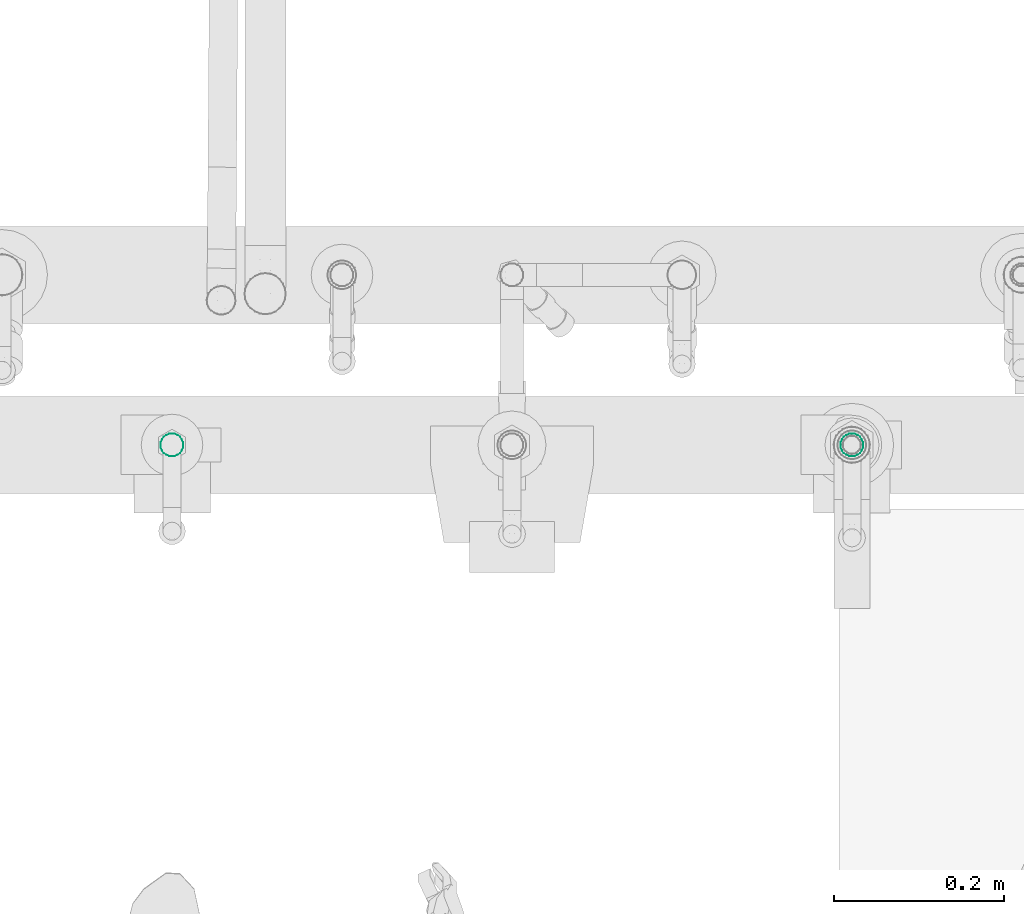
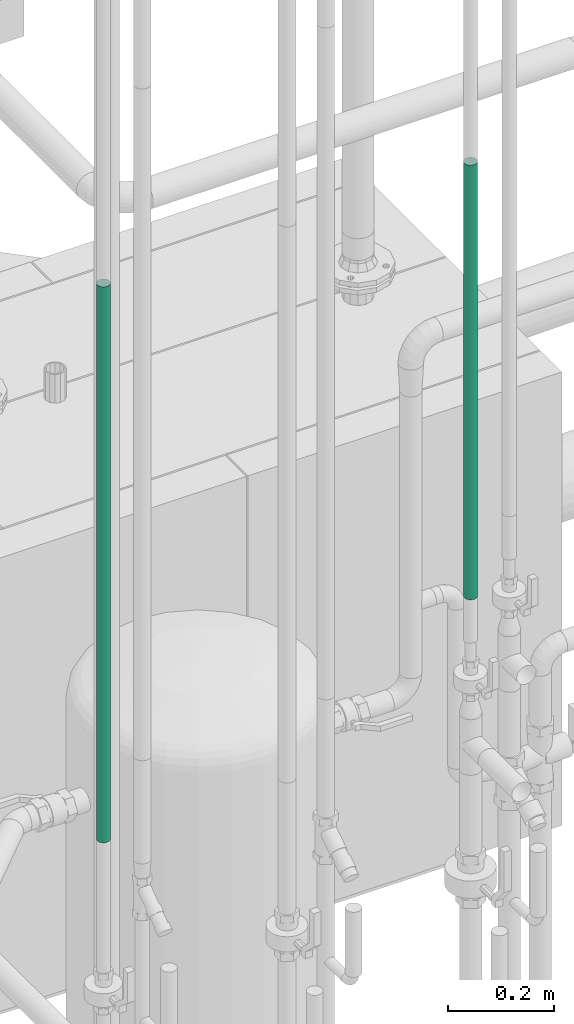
# One storey, part 208 of 374: 2 flow segments.
"""IFC2X3 building model written with IfcOpenShell, lengths in metres."""

from ifc_helpers import new_model, si_unit, direction, origin, place, context, subcontext, project, spatial, open_shell, surface_model, source, transform, mapped, element, save


model = new_model("IFC2X3")

# Units and contexts
model_context = context("Model", 3, precision=1e-05, world=origin(), true_north=direction((-0.4480736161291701, 0.8939966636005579)))
body_context = subcontext(model_context, "Body", "Model", "MODEL_VIEW")
ifc_project = project(units=[si_unit("LENGTHUNIT", "METRE"), si_unit("AREAUNIT", "SQUARE_METRE"), si_unit("VOLUMEUNIT", "CUBIC_METRE"), si_unit("PLANEANGLEUNIT", "RADIAN"), si_unit("THERMODYNAMICTEMPERATUREUNIT", "KELVIN"), si_unit("MASSUNIT", "GRAM", prefix="KILO"), si_unit("TIMEUNIT", "SECOND")], contexts=[model_context])

# Site, building, storey
site_placement = place(None, origin())
site = spatial("IfcSite", under=ifc_project, at=site_placement, Name="Site 1", CompositionType="ELEMENT")
building_placement = place(site_placement, origin())
building = spatial("IfcBuilding", under=site, at=building_placement, Name="Undefined", CompositionType="ELEMENT")
storey_placement = place(building_placement, origin())
storey = spatial("IfcBuildingStorey", under=building, at=storey_placement, Name="Rez de chauss\x8ee", CompositionType="ELEMENT", Elevation=0.0)

# Flow segments
shared_shape_1 = source(origin(), body_context, "Body", "SurfaceModel", [
    surface_model("IfcFaceBasedSurfaceModel", [(0.0, 0.0035111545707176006, 0.0), (0.0, 0.0, 0.0), (1.0010097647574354, 0.0, 0.0), (1.0010097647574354, 0.003511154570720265, 0.0), (0.0, -0.003391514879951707, -0.0009087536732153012), (1.0010097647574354, -0.0033915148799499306, -0.0009087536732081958), (0.0, -0.006432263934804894, -0.0026643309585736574), (1.0010097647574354, -0.006432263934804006, -0.002664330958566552), (0.0, -0.00891502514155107, -0.005147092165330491), (1.0010097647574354, -0.008915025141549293, -0.005147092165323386), (0.0, -0.010670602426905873, -0.008187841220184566), (1.0010097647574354, -0.010670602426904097, -0.008187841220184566), (0.0, -0.011579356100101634, -0.01157935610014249), (1.0010097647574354, -0.011579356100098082, -0.011579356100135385), (0.0, -0.011579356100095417, -0.015090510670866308), (1.0010097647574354, -0.011579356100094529, -0.015090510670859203), (0.0, -0.010670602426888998, -0.018482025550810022), (1.0010097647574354, -0.010670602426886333, -0.018482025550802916), (0.0, -0.008915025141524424, -0.021522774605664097), (1.0010097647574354, -0.008915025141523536, -0.021522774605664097), (0.0, -0.006432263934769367, -0.02400553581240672), (1.0010097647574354, -0.006432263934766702, -0.024005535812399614), (0.0, -0.0033915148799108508, -0.025761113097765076), (1.0010097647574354, -0.0033915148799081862, -0.025761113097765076), (0.0, 4.2632564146e-14, -0.026669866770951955), (1.0010097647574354, 4.6185277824e-14, -0.026669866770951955), (0.0, 0.0035111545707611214, -0.026669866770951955), (1.0010097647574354, 0.0035111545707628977, -0.026669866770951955), (0.0, 0.006902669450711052, -0.02576111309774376), (1.0010097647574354, 0.006902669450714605, -0.025761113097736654), (0.0, 0.00994341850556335, -0.024005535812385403), (1.0010097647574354, 0.009943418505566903, -0.024005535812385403), (0.0, 0.012426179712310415, -0.02152277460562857), (1.0010097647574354, 0.012426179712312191, -0.021522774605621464), (0.0, 0.014181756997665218, -0.018482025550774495), (1.0010097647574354, 0.014181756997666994, -0.01848202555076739), (0.0, 0.015090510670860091, -0.01509051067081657), (1.0010097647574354, 0.015090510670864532, -0.015090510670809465), (0.0, 0.015090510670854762, -0.011579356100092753), (1.0010097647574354, 0.015090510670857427, -0.011579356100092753), (0.0, 0.014181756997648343, -0.00818784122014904), (1.0010097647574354, 0.01418175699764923, -0.008187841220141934), (0.0, 0.012426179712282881, -0.005147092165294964), (1.0010097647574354, 0.012426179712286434, -0.005147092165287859), (0.0, 0.009943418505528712, -0.002664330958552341), (1.0010097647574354, 0.009943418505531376, -0.0026643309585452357), (0.0, 0.006902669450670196, -0.0009087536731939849), (1.0010097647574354, 0.006902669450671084, -0.0009087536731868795)], [open_shell([[[0, 1, 2, 3]], [[1, 4, 5, 2]], [[4, 6, 7, 5]], [[6, 8, 9, 7]], [[8, 10, 11, 9]], [[10, 12, 13, 11]], [[12, 14, 15, 13]], [[14, 16, 17, 15]], [[16, 18, 19, 17]], [[18, 20, 21, 19]], [[20, 22, 23, 21]], [[22, 24, 25, 23]], [[24, 26, 27, 25]], [[26, 28, 29, 27]], [[28, 30, 31, 29]], [[30, 32, 33, 31]], [[32, 34, 35, 33]], [[34, 36, 37, 35]], [[36, 38, 39, 37]], [[38, 40, 41, 39]], [[40, 42, 43, 41]], [[42, 44, 45, 43]], [[44, 46, 47, 45]], [[46, 0, 3, 47]]])]),
])
flow_segment_1_placement = place(storey_placement, origin())
element("IfcFlowSegment", 1, at=flow_segment_1_placement, inside=storey, Name="Tube acier d'après DIN 2448", ObjectType="Tube acier d'après DIN 2448", context=body_context, shape_type="MappedRepresentation", body=[
    mapped(shared_shape_1, transform((53.644570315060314, 10.714555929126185, 2.3491915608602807), x_axis=(0.0, 0.0, 1.0), y_axis=(-0.13052619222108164, 0.9914448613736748, 0.0), z_axis=(-0.9914448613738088, -0.13052619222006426, 0.0))),
])
shared_shape_2 = source(origin(), body_context, "Body", "SurfaceModel", [
    surface_model("IfcFaceBasedSurfaceModel", [(0.0, 0.0035111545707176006, 0.0), (0.0, 0.0, 0.0), (1.2806734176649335, 8.8817842e-16, 0.0), (1.2806734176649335, 0.003511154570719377, 7.105427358e-15), (0.0, -0.003391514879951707, -0.0009087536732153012), (1.2806734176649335, -0.0033915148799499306, -0.0009087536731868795), (0.0, -0.006432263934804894, -0.0026643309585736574), (1.2806734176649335, -0.006432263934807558, -0.0026643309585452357), (0.0, -0.00891502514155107, -0.005147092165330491), (1.2806734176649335, -0.008915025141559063, -0.00514709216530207), (0.0, -0.010670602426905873, -0.008187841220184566), (1.2806734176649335, -0.010670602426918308, -0.00818784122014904), (0.0, -0.011579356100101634, -0.01157935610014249), (1.2806734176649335, -0.01157935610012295, -0.011579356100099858), (0.0, -0.011579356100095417, -0.015090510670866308), (1.2806734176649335, -0.01157935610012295, -0.015090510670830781), (0.0, -0.010670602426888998, -0.018482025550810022), (1.2806734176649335, -0.010670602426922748, -0.01848202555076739), (0.0, -0.008915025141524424, -0.021522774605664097), (1.2806734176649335, -0.008915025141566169, -0.021522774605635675), (0.0, -0.006432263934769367, -0.02400553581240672), (1.2806734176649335, -0.00643226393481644, -0.024005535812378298), (0.0, -0.0033915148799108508, -0.025761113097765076), (1.2806734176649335, -0.0033915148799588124, -0.02576111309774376), (0.0, 4.2632564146e-14, -0.026669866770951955), (1.2806734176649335, -9.769962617e-15, -0.02666986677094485), (0.0, 0.0035111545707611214, -0.026669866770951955), (1.2806734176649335, 0.003511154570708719, -0.026669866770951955), (0.0, 0.006902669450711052, -0.02576111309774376), (1.2806734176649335, 0.006902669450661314, -0.02576111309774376), (0.0, 0.00994341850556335, -0.024005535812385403), (1.2806734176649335, 0.009943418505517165, -0.02400553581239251), (0.0, 0.012426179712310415, -0.02152277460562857), (1.2806734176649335, 0.012426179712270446, -0.021522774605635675), (0.0, 0.014181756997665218, -0.018482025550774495), (1.2806734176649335, 0.014181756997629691, -0.018482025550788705), (0.0, 0.015090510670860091, -0.01509051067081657), (1.2806734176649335, 0.015090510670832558, -0.015090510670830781), (0.0, 0.015090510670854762, -0.011579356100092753), (1.2806734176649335, 0.015090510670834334, -0.011579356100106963), (0.0, 0.014181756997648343, -0.00818784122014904), (1.2806734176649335, 0.014181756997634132, -0.008187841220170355), (0.0, 0.012426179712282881, -0.005147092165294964), (1.2806734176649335, 0.012426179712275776, -0.00514709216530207), (0.0, 0.009943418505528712, -0.002664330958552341), (1.2806734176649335, 0.009943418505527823, -0.002664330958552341), (0.0, 0.006902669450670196, -0.0009087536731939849), (1.2806734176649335, 0.006902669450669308, -0.0009087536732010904)], [open_shell([[[0, 1, 2, 3]], [[1, 4, 5, 2]], [[4, 6, 7, 5]], [[6, 8, 9, 7]], [[8, 10, 11, 9]], [[10, 12, 13, 11]], [[12, 14, 15, 13]], [[14, 16, 17, 15]], [[16, 18, 19, 17]], [[18, 20, 21, 19]], [[20, 22, 23, 21]], [[22, 24, 25, 23]], [[24, 26, 27, 25]], [[26, 28, 29, 27]], [[28, 30, 31, 29]], [[30, 32, 33, 31]], [[32, 34, 35, 33]], [[34, 36, 37, 35]], [[36, 38, 39, 37]], [[38, 40, 41, 39]], [[40, 42, 43, 41]], [[42, 44, 45, 43]], [[44, 46, 47, 45]], [[46, 0, 3, 47]]])]),
])
flow_segment_2_placement = place(storey_placement, origin())
element("IfcFlowSegment", 2, at=flow_segment_2_placement, inside=storey, Name="Tube acier d'après DIN 2448", ObjectType="Tube acier d'après DIN 2448", context=body_context, shape_type="MappedRepresentation", body=[
    mapped(shared_shape_2, transform((52.87055371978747, 10.72151816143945, 2.0695279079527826), x_axis=(0.0, 0.0, 1.0), y_axis=(0.13052619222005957, -0.9914448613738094, 0.0), z_axis=(0.9914448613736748, 0.13052619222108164, 0.0))),
])

save(model, "model.ifc")
